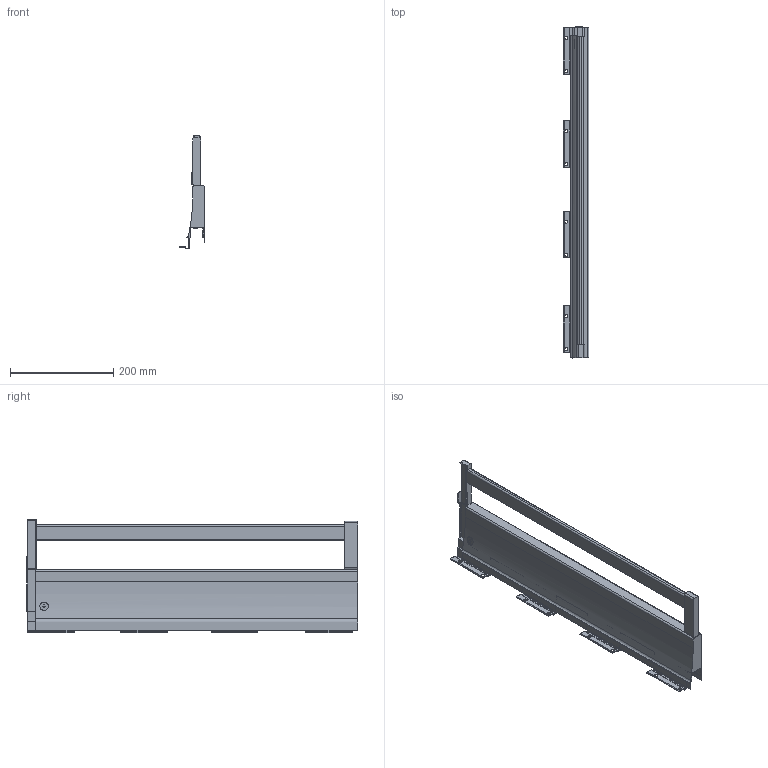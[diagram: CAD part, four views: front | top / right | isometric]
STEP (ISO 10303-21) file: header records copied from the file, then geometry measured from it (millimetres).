
FILE_DESCRIPTION (( 'STEP AP214' ), '1' );
FILE_NAME ('_XP Agantis Dekorseite H127 NL650 RE Rechteckreling.step', '2010-07-08T06:24:21', ( 'grass' ), ( '' ), 'SwSTEP 2.0', 'SolidWorks 2010', '' );
FILE_SCHEMA (( 'AUTOMOTIVE_DESIGN' ));
Length unit declared in the file: millimetre
Products named in the file (1): _XP Agantis Dekorseite H127 NL650 RE Rechteckreling
Bounding box: 50.01 x 642.45 x 219 mm (x, y, z)
Volume: 1642949.1 mm3; surface area: 318113.4 mm2
Topology: 2 solids, 2 shells, 211 faces, 606 edges, 396 vertices
Faces by surface type: plane 166, cylinder 45
Entity records: 6991 total; most frequent: CARTESIAN_POINT 1301, ORIENTED_EDGE 1212, DIRECTION 1117, EDGE_CURVE 606, LINE 515, VECTOR 515, VERTEX_POINT 396, AXIS2_PLACEMENT_3D 301
